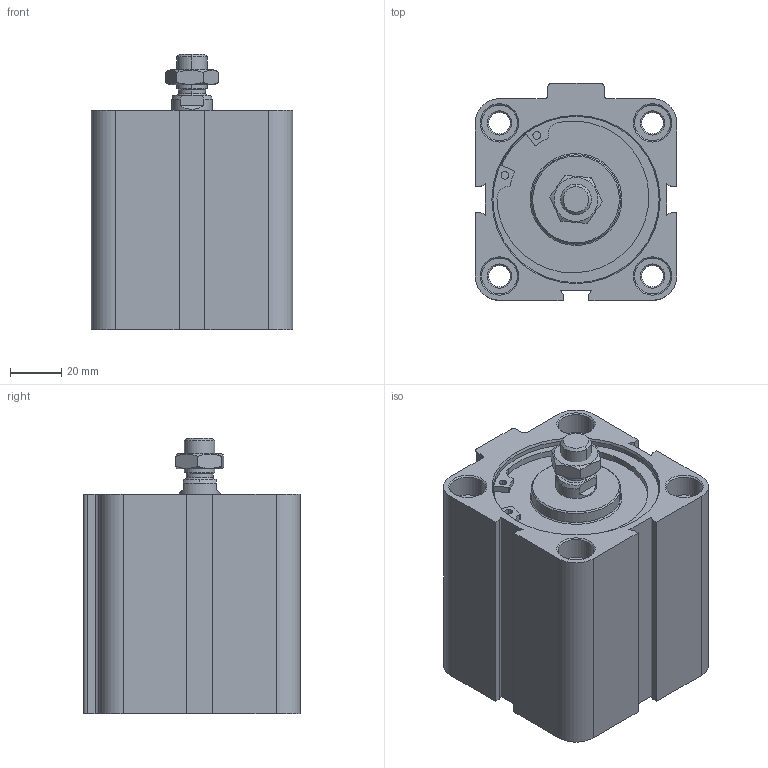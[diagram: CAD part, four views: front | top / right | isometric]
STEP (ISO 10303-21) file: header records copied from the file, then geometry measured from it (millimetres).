
FILE_DESCRIPTION (( 'STEP AP214' ), '1' );
FILE_NAME ('WSAC-063-0040-ML (3D).STEP', '2021-02-10T07:48:46', ( '' ), ( '' ), 'SwSTEP 2.0', 'SolidWorks 2016', '' );
FILE_SCHEMA (( 'AUTOMOTIVE_DESIGN' ));
Length unit declared in the file: millimetre
Products named in the file (4): WSAC-063-0040-ML (3D); Group3^WSAC-063-0040-ML (3D); Group2^WSAC-063-0040-ML (3D); Group1^WSAC-063-0040-ML (3D)
Assembly tree (3 placements, depth 2):
  WSAC-063-0040-ML (3D)
    Group1^WSAC-063-0040-ML (3D)
    Group2^WSAC-063-0040-ML (3D)
    Group3^WSAC-063-0040-ML (3D)
Bounding box: 79 x 85 x 107.91 mm (x, y, z)
Volume: 372363.1 mm3; surface area: 86648.6 mm2
Topology: 5 solids, 5 shells, 498 faces, 1254 edges, 816 vertices
Faces by surface type: plane 254, bspline 98, cylinder 83, cone 63
Entity records: 21368 total; most frequent: CARTESIAN_POINT 8656, ORIENTED_EDGE 2508, DIRECTION 2092, EDGE_CURVE 1254, VERTEX_POINT 816, VECTOR 804, LINE 804, AXIS2_PLACEMENT_3D 644
